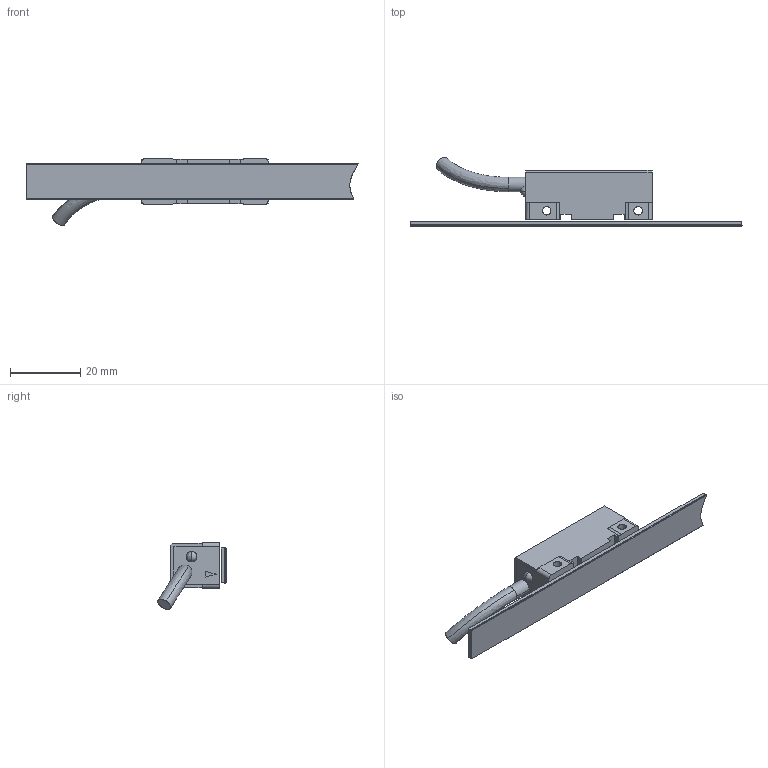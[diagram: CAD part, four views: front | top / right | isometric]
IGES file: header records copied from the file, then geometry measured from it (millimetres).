
Start section: SolidWorks IGES file using analytic representation for surfaces
Global section: file name: D:\Dokumenti\MOJI-DOKUMENTI2009-jan-jun\SWdatoteke\LM13\LM13-Bogen-mag-ringi\LM13-magnetic-tape-MS10.IGS; native system: SolidWorks 2009; preprocessor: SolidWorks 2009; author: cerar; date: 090519.141739; units: millimetre
Bounding box: 94.49 x 19.55 x 18.99 mm (x, y, z)
Surface area: 5006.6 mm2 (no closed solid volume)
Topology: 0 solids, 0 shells, 107 faces, 888 edges, 888 vertices
Faces by surface type: bspline 87, revolution 20
